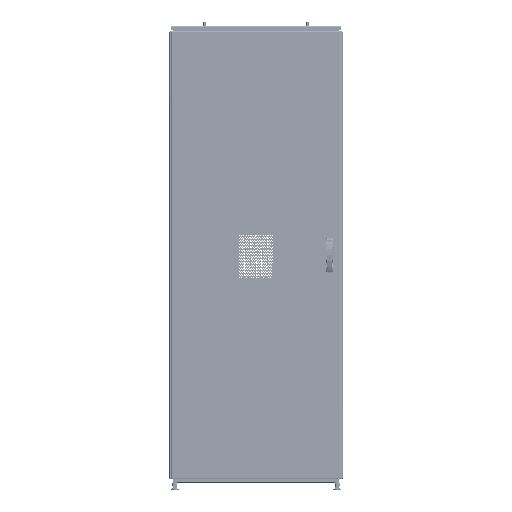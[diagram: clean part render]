
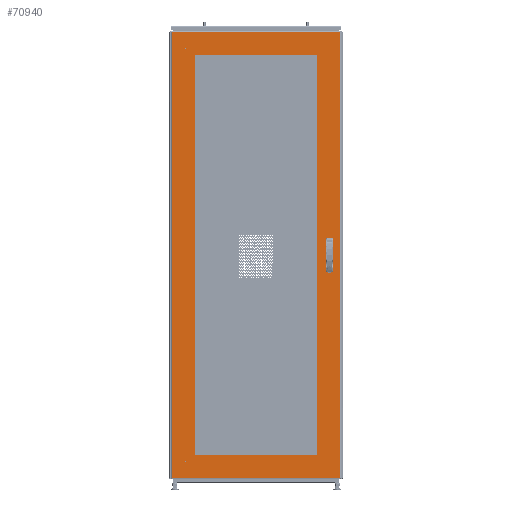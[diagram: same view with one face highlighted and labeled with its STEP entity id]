
A CAD part, top view. The second image highlights one B-rep face of the part: STEP entity #70940.
In plain terms, the highlighted planar face has unit normal (0, 0, 1).
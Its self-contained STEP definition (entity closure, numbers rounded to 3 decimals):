
#72 = LINE ( 'NONE', #147134, #312363 ) ;
#1547 = CARTESIAN_POINT ( 'NONE',  ( -284., 933., 1.397 ) ) ;
#5302 = DIRECTION ( 'NONE',  ( -1., 0., 0. ) ) ;
#7495 = CARTESIAN_POINT ( 'NONE',  ( 355.333, 75.082, 1.397 ) ) ;
#17745 = EDGE_CURVE ( 'NONE', #83813, #283911, #242929, .T. ) ;
#19406 = EDGE_CURVE ( 'NONE', #248727, #155410, #126570, .T. ) ;
#19433 = ORIENTED_EDGE ( 'NONE', *, *, #337495, .F. ) ;
#20721 = EDGE_CURVE ( 'NONE', #308691, #214516, #25357, .T. ) ;
#20999 = EDGE_CURVE ( 'NONE', #128845, #321114, #63939, .T. ) ;
#25357 = LINE ( 'NONE', #28786, #44907 ) ;
#27469 = PLANE ( 'NONE',  #310959 ) ;
#28786 = CARTESIAN_POINT ( 'NONE',  ( 330.187, -75.082, 1.397 ) ) ;
#30384 = FACE_BOUND ( 'NONE', #295538, .T. ) ;
#35818 = ORIENTED_EDGE ( 'NONE', *, *, #17745, .T. ) ;
#36135 = ORIENTED_EDGE ( 'NONE', *, *, #19406, .T. ) ;
#36141 = DIRECTION ( 'NONE',  ( 0., -1., 0. ) ) ;
#37015 = EDGE_LOOP ( 'NONE', ( #340807, #35818, #131424, #215555 ) ) ;
#39232 = ORIENTED_EDGE ( 'NONE', *, *, #20721, .F. ) ;
#39606 = VERTEX_POINT ( 'NONE', #7495 ) ;
#40205 = FACE_BOUND ( 'NONE', #247162, .T. ) ;
#40326 = LINE ( 'NONE', #381375, #123064 ) ;
#44907 = VECTOR ( 'NONE', #58667, 1000. ) ;
#46034 = EDGE_CURVE ( 'NONE', #119388, #298332, #169434, .T. ) ;
#56272 = EDGE_LOOP ( 'NONE', ( #242899, #212541, #212145, #114214 ) ) ;
#57966 = CARTESIAN_POINT ( 'NONE',  ( 330.187, 24.917, 1.397 ) ) ;
#58667 = DIRECTION ( 'NONE',  ( 1., 0., 0. ) ) ;
#59264 = CARTESIAN_POINT ( 'NONE',  ( 355.333, 24.917, 1.397 ) ) ;
#62107 = VECTOR ( 'NONE', #341503, 1000. ) ;
#63367 = CARTESIAN_POINT ( 'NONE',  ( -392.9, 1041.508, 1.397 ) ) ;
#63939 = LINE ( 'NONE', #256135, #83495 ) ;
#64924 = LINE ( 'NONE', #154874, #147880 ) ;
#70940 = ADVANCED_FACE ( 'NONE', ( #30384, #191412, #40205, #113164 ), #27469, .T. ) ;
#74616 = LINE ( 'NONE', #133495, #191556 ) ;
#79531 = EDGE_CURVE ( 'NONE', #202775, #308691, #370413, .T. ) ;
#83495 = VECTOR ( 'NONE', #5302, 1000. ) ;
#83813 = VERTEX_POINT ( 'NONE', #63367 ) ;
#89006 = EDGE_CURVE ( 'NONE', #39606, #125484, #361303, .T. ) ;
#89029 = DIRECTION ( 'NONE',  ( 1., 0., 0. ) ) ;
#91163 = CARTESIAN_POINT ( 'NONE',  ( 284., 933., 1.397 ) ) ;
#96819 = CARTESIAN_POINT ( 'NONE',  ( 392.9, 1041.508, 1.397 ) ) ;
#100294 = CARTESIAN_POINT ( 'NONE',  ( -392.9, -1041.508, 1.397 ) ) ;
#105563 = ORIENTED_EDGE ( 'NONE', *, *, #307525, .T. ) ;
#106089 = VECTOR ( 'NONE', #366008, 1000. ) ;
#112706 = CARTESIAN_POINT ( 'NONE',  ( 330.187, 75.082, 1.397 ) ) ;
#113164 = FACE_OUTER_BOUND ( 'NONE', #37015, .T. ) ;
#114214 = ORIENTED_EDGE ( 'NONE', *, *, #89006, .F. ) ;
#119359 = VECTOR ( 'NONE', #188650, 1000. ) ;
#119388 = VERTEX_POINT ( 'NONE', #189635 ) ;
#123064 = VECTOR ( 'NONE', #160411, 1000. ) ;
#125059 = CARTESIAN_POINT ( 'NONE',  ( 355.333, 24.917, 1.397 ) ) ;
#125484 = VERTEX_POINT ( 'NONE', #112706 ) ;
#126570 = LINE ( 'NONE', #275926, #140647 ) ;
#128845 = VERTEX_POINT ( 'NONE', #389231 ) ;
#131424 = ORIENTED_EDGE ( 'NONE', *, *, #240960, .T. ) ;
#133495 = CARTESIAN_POINT ( 'NONE',  ( 330.187, 24.917, 1.397 ) ) ;
#139569 = VERTEX_POINT ( 'NONE', #388439 ) ;
#140647 = VECTOR ( 'NONE', #89029, 1000. ) ;
#146159 = VECTOR ( 'NONE', #36141, 1000. ) ;
#147134 = CARTESIAN_POINT ( 'NONE',  ( 330.187, -24.917, 1.397 ) ) ;
#147526 = VERTEX_POINT ( 'NONE', #125059 ) ;
#147880 = VECTOR ( 'NONE', #153528, 1000. ) ;
#152703 = DIRECTION ( 'NONE',  ( 0., 0., 1. ) ) ;
#153528 = DIRECTION ( 'NONE',  ( 0., 1., 0. ) ) ;
#154096 = CARTESIAN_POINT ( 'NONE',  ( -395.897, -1044.505, 1.397 ) ) ;
#154874 = CARTESIAN_POINT ( 'NONE',  ( -284., 933., 1.397 ) ) ;
#155410 = VERTEX_POINT ( 'NONE', #251882 ) ;
#159881 = EDGE_CURVE ( 'NONE', #147526, #39606, #212112, .T. ) ;
#160411 = DIRECTION ( 'NONE',  ( -1., 0., 0. ) ) ;
#169434 = LINE ( 'NONE', #396052, #106089 ) ;
#170128 = ORIENTED_EDGE ( 'NONE', *, *, #255902, .F. ) ;
#171713 = VECTOR ( 'NONE', #181122, 1000. ) ;
#179050 = LINE ( 'NONE', #398901, #62107 ) ;
#181122 = DIRECTION ( 'NONE',  ( 0., -1., 0. ) ) ;
#181620 = ORIENTED_EDGE ( 'NONE', *, *, #306486, .T. ) ;
#184213 = CARTESIAN_POINT ( 'NONE',  ( 355.333, -75.082, 1.397 ) ) ;
#188650 = DIRECTION ( 'NONE',  ( 0., 1., 0. ) ) ;
#189635 = CARTESIAN_POINT ( 'NONE',  ( 392.9, -1041.508, 1.397 ) ) ;
#191412 = FACE_BOUND ( 'NONE', #56272, .T. ) ;
#191556 = VECTOR ( 'NONE', #349176, 1000. ) ;
#202775 = VERTEX_POINT ( 'NONE', #369246 ) ;
#206421 = CARTESIAN_POINT ( 'NONE',  ( -394.321, -1041.508, 1.397 ) ) ;
#212112 = LINE ( 'NONE', #59264, #119359 ) ;
#212145 = ORIENTED_EDGE ( 'NONE', *, *, #236867, .F. ) ;
#212541 = ORIENTED_EDGE ( 'NONE', *, *, #264926, .F. ) ;
#214516 = VERTEX_POINT ( 'NONE', #184213 ) ;
#215555 = ORIENTED_EDGE ( 'NONE', *, *, #46034, .T. ) ;
#218702 = VECTOR ( 'NONE', #318718, 1000. ) ;
#228609 = CARTESIAN_POINT ( 'NONE',  ( -392.9, 1042.929, 1.397 ) ) ;
#230152 = CARTESIAN_POINT ( 'NONE',  ( 355.333, -24.917, 1.397 ) ) ;
#231237 = CARTESIAN_POINT ( 'NONE',  ( -284., -933., 1.397 ) ) ;
#236867 = EDGE_CURVE ( 'NONE', #125484, #318816, #179050, .T. ) ;
#237127 = DIRECTION ( 'NONE',  ( -1., 0., 0. ) ) ;
#240960 = EDGE_CURVE ( 'NONE', #283911, #119388, #377707, .T. ) ;
#242044 = ORIENTED_EDGE ( 'NONE', *, *, #20999, .T. ) ;
#242899 = ORIENTED_EDGE ( 'NONE', *, *, #159881, .F. ) ;
#242929 = LINE ( 'NONE', #228609, #218702 ) ;
#247162 = EDGE_LOOP ( 'NONE', ( #181620, #36135, #105563, #242044 ) ) ;
#248727 = VERTEX_POINT ( 'NONE', #1547 ) ;
#251882 = CARTESIAN_POINT ( 'NONE',  ( 284., 933., 1.397 ) ) ;
#255902 = EDGE_CURVE ( 'NONE', #139569, #202775, #72, .T. ) ;
#256135 = CARTESIAN_POINT ( 'NONE',  ( 284., -933., 1.397 ) ) ;
#264472 = LINE ( 'NONE', #91163, #171713 ) ;
#264926 = EDGE_CURVE ( 'NONE', #318816, #147526, #74616, .T. ) ;
#271235 = VECTOR ( 'NONE', #307015, 1000. ) ;
#275926 = CARTESIAN_POINT ( 'NONE',  ( 284., 933., 1.397 ) ) ;
#283911 = VERTEX_POINT ( 'NONE', #100294 ) ;
#284294 = CARTESIAN_POINT ( 'NONE',  ( 330.187, -24.917, 1.397 ) ) ;
#295538 = EDGE_LOOP ( 'NONE', ( #19433, #39232, #318191, #170128 ) ) ;
#297016 = DIRECTION ( 'NONE',  ( 0., 1., 0. ) ) ;
#298332 = VERTEX_POINT ( 'NONE', #96819 ) ;
#306486 = EDGE_CURVE ( 'NONE', #321114, #248727, #64924, .T. ) ;
#307015 = DIRECTION ( 'NONE',  ( -1., 0., 0. ) ) ;
#307525 = EDGE_CURVE ( 'NONE', #155410, #128845, #264472, .T. ) ;
#308691 = VERTEX_POINT ( 'NONE', #373765 ) ;
#310959 = AXIS2_PLACEMENT_3D ( 'NONE', #154096, #152703, #369596 ) ;
#312363 = VECTOR ( 'NONE', #237127, 1000. ) ;
#318191 = ORIENTED_EDGE ( 'NONE', *, *, #79531, .F. ) ;
#318718 = DIRECTION ( 'NONE',  ( 0., -1., 0. ) ) ;
#318816 = VERTEX_POINT ( 'NONE', #57966 ) ;
#321114 = VERTEX_POINT ( 'NONE', #231237 ) ;
#324661 = EDGE_CURVE ( 'NONE', #298332, #83813, #40326, .T. ) ;
#329353 = DIRECTION ( 'NONE',  ( 1., 0., 0. ) ) ;
#337495 = EDGE_CURVE ( 'NONE', #214516, #139569, #396859, .T. ) ;
#340807 = ORIENTED_EDGE ( 'NONE', *, *, #324661, .T. ) ;
#341503 = DIRECTION ( 'NONE',  ( 0., -1., 0. ) ) ;
#349176 = DIRECTION ( 'NONE',  ( 1., 0., 0. ) ) ;
#357764 = VECTOR ( 'NONE', #297016, 1000. ) ;
#361303 = LINE ( 'NONE', #397089, #271235 ) ;
#363315 = VECTOR ( 'NONE', #329353, 1000. ) ;
#366008 = DIRECTION ( 'NONE',  ( 0., 1., 0. ) ) ;
#369246 = CARTESIAN_POINT ( 'NONE',  ( 330.187, -24.917, 1.397 ) ) ;
#369596 = DIRECTION ( 'NONE',  ( 1., 0., 0. ) ) ;
#370413 = LINE ( 'NONE', #284294, #146159 ) ;
#373765 = CARTESIAN_POINT ( 'NONE',  ( 330.187, -75.082, 1.397 ) ) ;
#377707 = LINE ( 'NONE', #206421, #363315 ) ;
#381375 = CARTESIAN_POINT ( 'NONE',  ( 394.321, 1041.508, 1.397 ) ) ;
#388439 = CARTESIAN_POINT ( 'NONE',  ( 355.333, -24.917, 1.397 ) ) ;
#389231 = CARTESIAN_POINT ( 'NONE',  ( 284., -933., 1.397 ) ) ;
#396052 = CARTESIAN_POINT ( 'NONE',  ( 392.9, -1042.929, 1.397 ) ) ;
#396859 = LINE ( 'NONE', #230152, #357764 ) ;
#397089 = CARTESIAN_POINT ( 'NONE',  ( 330.187, 75.082, 1.397 ) ) ;
#398901 = CARTESIAN_POINT ( 'NONE',  ( 330.187, 24.917, 1.397 ) ) ;
